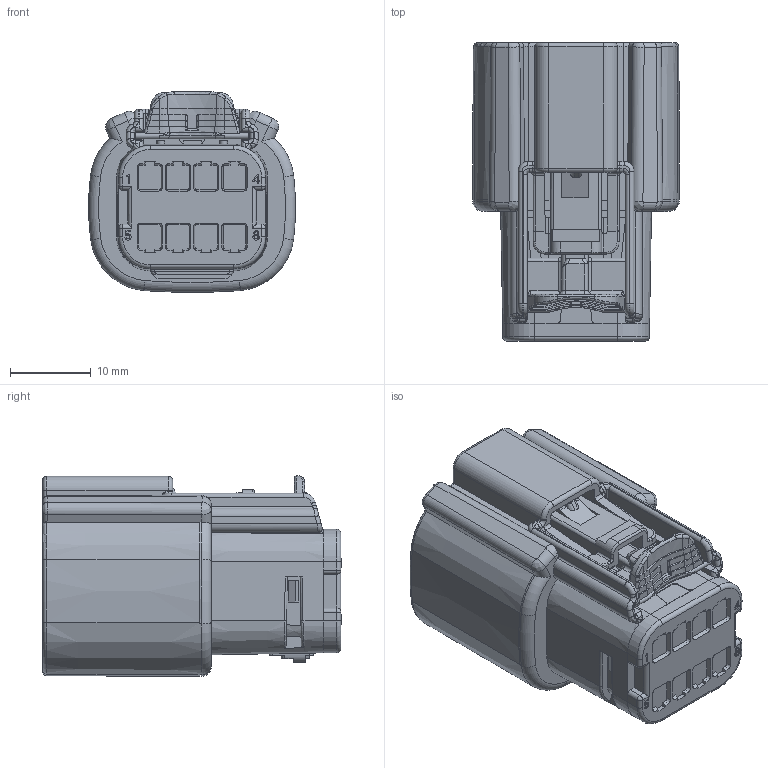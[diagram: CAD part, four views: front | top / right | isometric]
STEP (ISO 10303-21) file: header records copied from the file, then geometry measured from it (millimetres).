
FILE_DESCRIPTION((''),'2;1');
FILE_NAME('334724882','2017-03-30T',('ksrinivasara'),(''),'PRO/ENGINEER BY PARAMETRIC TECHNOLOGY CORPORATION, 2012310','PRO/ENGINEER BY PARAMETRIC TECHNOLOGY CORPORATION, 2012310','');
FILE_SCHEMA(('CONFIG_CONTROL_DESIGN'));
Length unit declared in the file: millimetre
Products named in the file (1): 334724882
Bounding box: 25.62 x 37 x 24.85 mm (x, y, z)
Volume: 12549.3 mm3; surface area: 8329.8 mm2
Topology: 1 solids, 1 shells, 1009 faces, 2747 edges, 1753 vertices
Faces by surface type: plane 509, cylinder 231, torus 113, bspline 102, cone 45, sphere 7, revolution 2
Entity records: 49368 total; most frequent: CARTESIAN_POINT 24899, ORIENTED_EDGE 5482, DIRECTION 4537, EDGE_CURVE 2741, VERTEX_POINT 1753, VECTOR 1639, LINE 1639, AXIS2_PLACEMENT_3D 1448
